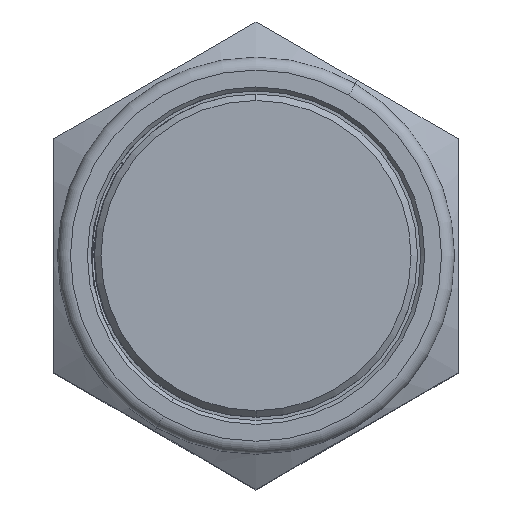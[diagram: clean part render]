
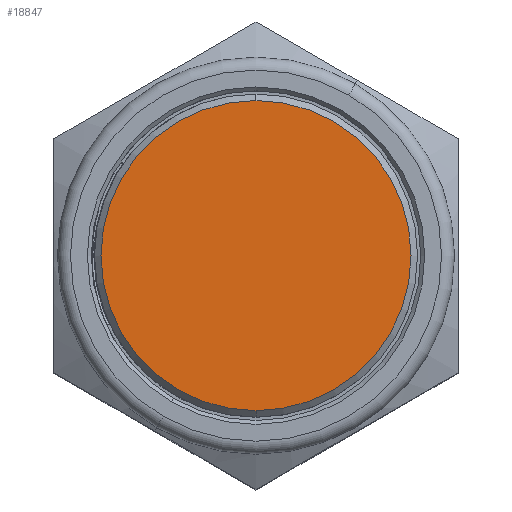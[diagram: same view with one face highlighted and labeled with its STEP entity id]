
A CAD part, top view. The second image highlights one B-rep face of the part: STEP entity #18847.
In plain terms, the highlighted planar face has unit normal (0, 0, 1).
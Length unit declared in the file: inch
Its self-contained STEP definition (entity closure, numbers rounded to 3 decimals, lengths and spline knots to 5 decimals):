
#942 = EDGE_CURVE ( 'NONE', #20057, #3713, #8551, .T. ) ;
#1481 = DIRECTION ( 'NONE',  ( 0., 1., 0. ) ) ;
#3713 = VERTEX_POINT ( 'NONE', #22479 ) ;
#7315 = AXIS2_PLACEMENT_3D ( 'NONE', #13796, #8203, #11773 ) ;
#8051 = AXIS2_PLACEMENT_3D ( 'NONE', #10183, #17482, #21193 ) ;
#8203 = DIRECTION ( 'NONE',  ( 0., 0., -1. ) ) ;
#8551 = CIRCLE ( 'NONE', #21949, 0.1195 ) ;
#8772 = ORIENTED_EDGE ( 'NONE', *, *, #942, .T. ) ;
#10183 = CARTESIAN_POINT ( 'NONE',  ( 0., 0., 0.321 ) ) ;
#10607 = CARTESIAN_POINT ( 'NONE',  ( 0., 0., 0.321 ) ) ;
#11773 = DIRECTION ( 'NONE',  ( 0., 1., 0. ) ) ;
#13675 = FACE_OUTER_BOUND ( 'NONE', #14560, .T. ) ;
#13796 = CARTESIAN_POINT ( 'NONE',  ( 0., 0., 0.321 ) ) ;
#14560 = EDGE_LOOP ( 'NONE', ( #19838, #8772 ) ) ;
#17482 = DIRECTION ( 'NONE',  ( 0., 0., 1. ) ) ;
#17862 = EDGE_CURVE ( 'NONE', #3713, #20057, #20663, .T. ) ;
#18467 = CARTESIAN_POINT ( 'NONE',  ( 0., -0.1195, 0.321 ) ) ;
#18847 = ADVANCED_FACE ( 'NONE', ( #13675 ), #20885, .F. ) ;
#19838 = ORIENTED_EDGE ( 'NONE', *, *, #17862, .T. ) ;
#20057 = VERTEX_POINT ( 'NONE', #18467 ) ;
#20663 = CIRCLE ( 'NONE', #8051, 0.1195 ) ;
#20885 = PLANE ( 'NONE',  #7315 ) ;
#21193 = DIRECTION ( 'NONE',  ( 0., 1., 0. ) ) ;
#21949 = AXIS2_PLACEMENT_3D ( 'NONE', #10607, #21997, #1481 ) ;
#21997 = DIRECTION ( 'NONE',  ( 0., 0., 1. ) ) ;
#22479 = CARTESIAN_POINT ( 'NONE',  ( 0., 0.1195, 0.321 ) ) ;
